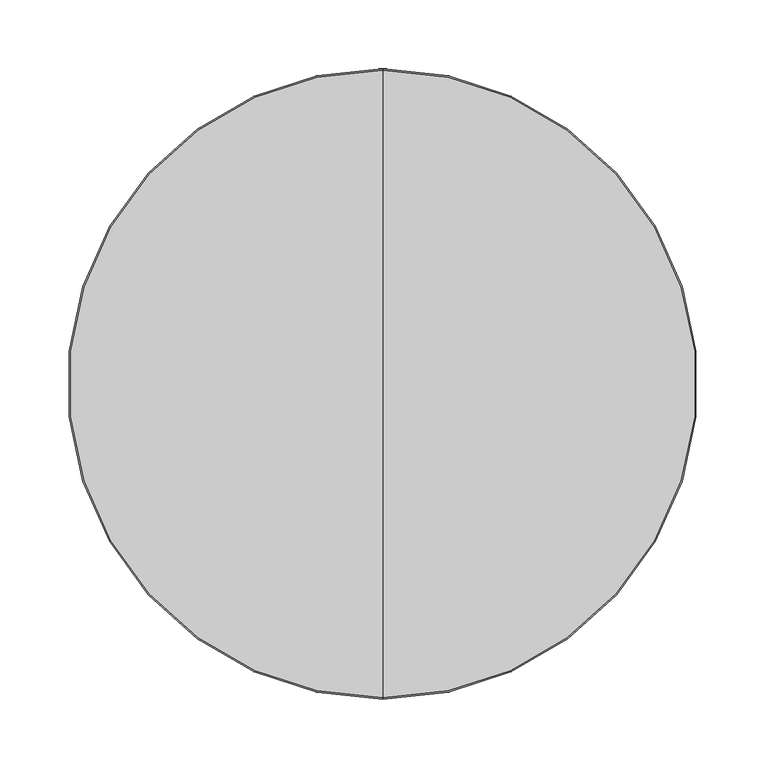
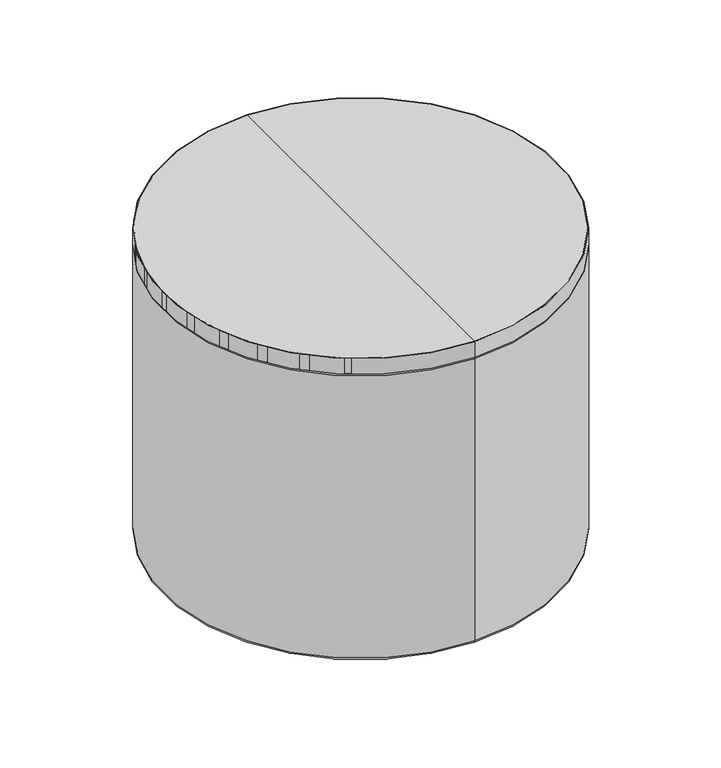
"""IFC4 building model written with IfcOpenShell, lengths in millimetres: furniture geometry, Indiana-Otty-Ottoman_Round_Table : 840-1815ROT."""

import ifcopenshell
import ifcopenshell.guid

model = None  # the IFC model being written
_history = None  # IfcOwnerHistory: only IFC2X3 demands one
_inside = {}  # id of a spatial element -> (the spatial element, [elements in it])
_under = {}  # id of a project, library or spatial element -> (it, [spatial elements below it])
_declared = {}  # id of a project -> (the project, [libraries it declares])
_typed = {}  # id of a type object -> (the type object, [elements of that type])
_made_of = {}  # id of a material, layer set ... -> (it, [elements and type objects made of it])


def new_model(schema):
    """Start an empty IFC model of exactly this schema.

    Asked for "IFC4X3", IfcOpenShell would pick the latest addendum, in which some entities
    have other attributes; the version numbers below select the first issue.
    IFC2X3 requires an IfcOwnerHistory on every rooted entity: one is made here for all.
    """
    global model, _history
    if schema == "IFC4X3":
        model = ifcopenshell.file(schema_version=(4, 3, 0, 0))
    else:
        model = ifcopenshell.file(schema=schema)
    _inside.clear()
    _under.clear()
    _declared.clear()
    _typed.clear()
    _made_of.clear()
    _history = None
    if model.schema == "IFC2X3":
        org = make("IfcOrganization", Name="unknown")
        user = make(
            "IfcPersonAndOrganization",
            ThePerson=make("IfcPerson", FamilyName="unknown"),
            TheOrganization=org,
        )
        app = make(
            "IfcApplication",
            ApplicationDeveloper=org,
            Version="unknown",
            ApplicationFullName="unknown",
            ApplicationIdentifier="unknown",
        )
        _history = make(
            "IfcOwnerHistory",
            OwningUser=user,
            OwningApplication=app,
            ChangeAction="ADDED",
            CreationDate=0,
        )
    return model


def make(cls, **values):
    """One entity of the class cls with the attributes given. An attribute that is None is left unset."""
    return model.create_entity(
        cls, **{name: value for name, value in values.items() if value is not None}
    )


def rooted(cls, **values):
    """An entity with a GlobalId (a new one), such as an element, a storey or a relation."""
    return make(cls, GlobalId=ifcopenshell.guid.new(), OwnerHistory=_history, **values)


def si_unit(unit_type, name, prefix=None):
    """IfcSIUnit, for example si_unit("LENGTHUNIT", "METRE", prefix="MILLI")."""
    return make("IfcSIUnit", UnitType=unit_type, Prefix=prefix, Name=name)


def assignment(units):
    """IfcUnitAssignment: the units of a project."""
    return None if units is None else make("IfcUnitAssignment", Units=units)


def point(xyz):
    """IfcCartesianPoint."""
    return None if xyz is None else make("IfcCartesianPoint", Coordinates=xyz)


def direction(xyz):
    """IfcDirection."""
    return None if xyz is None else make("IfcDirection", DirectionRatios=xyz)


def frame(location, z_axis=None, x_axis=None):
    """IfcAxis2Placement3D, a coordinate frame: its origin and axes. An axis left out is left unset."""
    return make(
        "IfcAxis2Placement3D",
        Location=point(location),
        Axis=direction(z_axis),
        RefDirection=direction(x_axis),
    )


def origin():
    """The frame at (0, 0, 0) with its axes left unset."""
    return frame((0.0, 0.0, 0.0))


def place(relative_to, where):
    """IfcLocalPlacement: puts the frame where relative to a parent placement (None: the world)."""
    return make(
        "IfcLocalPlacement", PlacementRelTo=relative_to, RelativePlacement=where
    )


def context(
    kind, dimensions, precision=None, world=None, true_north=None, identifier=None
):
    """IfcGeometricRepresentationContext, for example the 3D "Model" context."""
    return make(
        "IfcGeometricRepresentationContext",
        ContextIdentifier=identifier,
        ContextType=kind,
        CoordinateSpaceDimension=dimensions,
        Precision=precision,
        WorldCoordinateSystem=world,
        TrueNorth=true_north,
    )


def project(units=None, contexts=None):
    """IfcProject with its units and contexts."""
    return rooted(
        "IfcProject",
        Name="project",
        RepresentationContexts=contexts,
        UnitsInContext=assignment(units),
    )


def spatial(cls, under=None, at=None, **own):
    """A site, building, storey or space (cls), placed at a placement, below another one or the project."""
    s = rooted(cls, ObjectPlacement=at, **own)
    if under is not None:
        _under.setdefault(under.id(), (under, []))[1].append(s)
    return s


def polyline(points):
    """IfcPolyline through the points."""
    return make("IfcPolyline", Points=[point(p) for p in points])


def circle_curve(where, radius):
    """IfcCircle in the frame where."""
    return make("IfcCircle", Position=where, Radius=radius)


def ellipse_curve(where, semi_axis1, semi_axis2):
    """IfcEllipse in the frame where."""
    return make(
        "IfcEllipse", Position=where, SemiAxis1=semi_axis1, SemiAxis2=semi_axis2
    )


def trimmed(basis, trim1, trim2, sense, master):
    """IfcTrimmedCurve: the piece of a basis curve between two trims."""
    return make(
        "IfcTrimmedCurve",
        BasisCurve=basis,
        Trim1=trim1,
        Trim2=trim2,
        SenseAgreement=sense,
        MasterRepresentation=master,
    )


def shape(context_of_items, identifier, shape_type, items):
    """IfcShapeRepresentation: the items that make up one representation, for example the "Body"."""
    return make(
        "IfcShapeRepresentation",
        ContextOfItems=context_of_items,
        RepresentationIdentifier=identifier,
        RepresentationType=shape_type,
        Items=items,
    )


def source(mapping_origin, context_of_items, identifier, shape_type, items):
    """IfcRepresentationMap: a shape defined once, which mapped items show again and again."""
    return make(
        "IfcRepresentationMap",
        MappingOrigin=mapping_origin,
        MappedRepresentation=shape(context_of_items, identifier, shape_type, items),
    )


def transform(
    local_origin,
    x_axis=None,
    y_axis=None,
    z_axis=None,
    scale=None,
    scale2=None,
    scale3=None,
    uniform=True,
):
    """IfcCartesianTransformationOperator3D, or its non-uniform kind. x_axis, y_axis, z_axis: its Axis1, 2, 3."""
    if uniform:
        return make(
            "IfcCartesianTransformationOperator3D",
            Axis1=direction(x_axis),
            Axis2=direction(y_axis),
            LocalOrigin=point(local_origin),
            Scale=scale,
            Axis3=direction(z_axis),
        )
    return make(
        "IfcCartesianTransformationOperator3DnonUniform",
        Axis1=direction(x_axis),
        Axis2=direction(y_axis),
        LocalOrigin=point(local_origin),
        Scale=scale,
        Axis3=direction(z_axis),
        Scale2=scale2,
        Scale3=scale3,
    )


def mapped(mapping_source, mapping_target):
    """IfcMappedItem: shows the shape of a source again, moved by a transform."""
    return make(
        "IfcMappedItem", MappingSource=mapping_source, MappingTarget=mapping_target
    )


def made_of(thing, what):
    """Note that an element or type object is made of a material, layer set ...; save() writes the relation."""
    if what is not None:
        _made_of.setdefault(what.id(), (what, []))[1].append(thing)
    return thing


def element(
    cls,
    number,
    at=None,
    inside=None,
    cuts=None,
    type_object=None,
    material=None,
    context=None,
    identifier="Body",
    shape_type=None,
    held_by="IfcProductDefinitionShape",
    body=None,
    shapes=None,
    **own,
):
    """One element of the class cls, such as IfcWall. Its Tag is "e" and its number.

    at: its placement. inside: the storey or other place that contains it. cuts: it is an
    opening in that element (IfcRelVoidsElement). A single representation is given by context,
    identifier, shape_type and body (its items); several are given by shapes. held_by: the class
    of the entity that holds the representations. save() writes the other relations.
    """
    e = rooted(cls, Tag="e%d" % number, ObjectPlacement=at, **own)
    if body is not None:
        shapes = [shape(context, identifier, shape_type, body)]
    if shapes is not None:
        e.Representation = make(held_by, Representations=shapes)
    if inside is not None:
        _inside.setdefault(inside.id(), (inside, []))[1].append(e)
    if cuts is not None:
        rooted(
            "IfcRelVoidsElement", RelatingBuildingElement=cuts, RelatedOpeningElement=e
        )
    if type_object is not None:
        _typed.setdefault(type_object.id(), (type_object, []))[1].append(e)
    return made_of(e, material)


def aggregate(whole, parts):
    """IfcRelAggregates: a whole, such as a stair, and the parts it consists of."""
    return rooted("IfcRelAggregates", RelatingObject=whole, RelatedObjects=parts)


def save(model, path):
    """Write the relations noted so far, then the file.

    IfcRelAggregates (storeys below a building ...), IfcRelContainedInSpatialStructure (elements
    in a storey), IfcRelDefinesByType, IfcRelAssociatesMaterial and IfcRelDeclares: one each for
    every whole, place, type object, material and project.
    """
    for whole, parts in _under.values():
        aggregate(whole, parts)
    for where, things in _inside.values():
        rooted(
            "IfcRelContainedInSpatialStructure",
            RelatedElements=things,
            RelatingStructure=where,
        )
    for kind, things in _typed.values():
        rooted("IfcRelDefinesByType", RelatedObjects=things, RelatingType=kind)
    for what, things in _made_of.values():
        rooted("IfcRelAssociatesMaterial", RelatedObjects=things, RelatingMaterial=what)
    for by, libraries in _declared.values():
        rooted("IfcRelDeclares", RelatingContext=by, RelatedDefinitions=libraries)
    model.write(path)


def plane_surface(at):
    """IfcPlane: the flat surface through the origin of the frame at, square to its z axis."""
    return make("IfcPlane", Position=at)


def cylinder_surface(at, radius):
    """IfcCylindricalSurface: all points at the distance radius from the z axis of the frame at."""
    return make("IfcCylindricalSurface", Position=at, Radius=radius)


def revolved_surface(curve, axis_point, axis_direction):
    """IfcSurfaceOfRevolution: the curve turned about the line through axis_point along axis_direction."""
    return make(
        "IfcSurfaceOfRevolution",
        SweptCurve=make("IfcArbitraryOpenProfileDef", ProfileType="CURVE", Curve=curve),
        AxisPosition=make("IfcAxis1Placement", Location=point(axis_point), Axis=direction(axis_direction)),
    )


def advanced_brep(points, edges, surfaces, faces):
    """IfcAdvancedBrep: a solid bounded by faces that lie on surfaces and meet in shared edges.

    An edge is (start, end): straight between two places in points (the first is 0);
    or (start, end, curve); or (start, end, curve, False) where it runs against its curve.
    A face is (place in surfaces, loops), or (place, loops, False) where it looks against
    its surface's normal. A loop lists edges by number (the first is 1), with a minus sign
    where the edge is run from its end to its start. The first loop is the outer one.
    """
    corners = [point(p) for p in points]
    vertices = [make("IfcVertexPoint", VertexGeometry=c) for c in corners]
    made = []
    for start, end, *more in edges:
        made.append(
            make(
                "IfcEdgeCurve",
                EdgeStart=vertices[start],
                EdgeEnd=vertices[end],
                EdgeGeometry=more[0] if more else make("IfcPolyline", Points=[corners[start], corners[end]]),
                SameSense=more[1] if len(more) > 1 else True,
            )
        )
    hull = []
    for where, loops, *sense in faces:
        bounds = []
        for j, loop in enumerate(loops):
            ring = [make("IfcOrientedEdge", EdgeElement=made[abs(k) - 1], Orientation=k > 0) for k in loop]
            bounds.append(
                make(
                    "IfcFaceOuterBound" if j == 0 else "IfcFaceBound",
                    Bound=make("IfcEdgeLoop", EdgeList=ring),
                    Orientation=True,
                )
            )
        hull.append(make("IfcAdvancedFace", Bounds=bounds, FaceSurface=surfaces[where], SameSense=sense[0] if sense else True))
    return make("IfcAdvancedBrep", Outer=make("IfcClosedShell", CfsFaces=hull))


def furniture_b9e1d5f8(model_context):
    return source(origin(), model_context, "Body", "AdvancedBrep", [
        advanced_brep(
        [(0.0, -227.6078125, 361.95), (0.0, 227.6078125, 361.95), (0.0, 0.0, 361.95), (0.0, -227.6078125, 381.0), (0.0, 227.6078125, 381.0), (0.0, 0.0, 381.0)],
        [
            (0, 1, circle_curve(frame((0.0, 0.0, 361.95), z_axis=(0.0, 0.0, -1.0), x_axis=(0.0, 1.0, 0.0)), 227.6078125)),
            (1, 2),
            (2, 0),
            (1, 0, circle_curve(frame((0.0, 0.0, 361.95), z_axis=(0.0, 0.0, -1.0), x_axis=(0.0, 1.0, 0.0)), 227.6078125)),
            (3, 4, circle_curve(frame((0.0, 0.0, 381.0), z_axis=(0.0, 0.0, -1.0), x_axis=(0.0, 1.0, 0.0)), 227.6078125)),
            (4, 1),
            (0, 3),
            (4, 3, circle_curve(frame((0.0, 0.0, 381.0), z_axis=(0.0, 0.0, -1.0), x_axis=(0.0, 1.0, 0.0)), 227.6078125)),
            (5, 4),
            (3, 5),
        ],
        [
            plane_surface(frame((0.0, 0.0, 361.95), z_axis=(0.0, 0.0, -1.0), x_axis=(0.0, 1.0, 0.0))),
            cylinder_surface(frame((0.0, 0.0, 387.35), z_axis=(0.0, 0.0, 1.0), x_axis=(0.0, 1.0, 0.0)), 227.6078125),
            plane_surface(frame((0.0, 0.0, 381.0), z_axis=(0.0, 0.0, 1.0), x_axis=(0.0, 1.0, 0.0))),
        ],
        [
            (0, [[1, 2, 3]]),
            (0, [[4, -3, -2]]),
            (1, [[5, 6, -1, 7]]),
            (1, [[8, -7, -4, -6]]),
            (2, [[9, -5, 10]]),
            (2, [[-10, -8, -9]]),
        ],
    ),
        advanced_brep(
        [(0.0, -227.6078125, 361.95), (0.0, 227.6078125, 361.95), (0.0, 227.6078125, 381.0), (0.0, -227.6078125, 381.0), (0.0, -228.6, 361.95), (0.0, 228.6, 361.95), (0.0, -228.6, 381.0), (0.0, 228.6, 381.0)],
        [
            (0, 1, circle_curve(frame((0.0, 0.0, 361.95), z_axis=(0.0, 0.0, -1.0), x_axis=(0.0, 1.0, 0.0)), 227.6078125)),
            (1, 2),
            (2, 3, circle_curve(frame((0.0, 0.0, 381.0), z_axis=(0.0, 0.0, 1.0), x_axis=(0.0, 1.0, 0.0)), 227.6078125)),
            (3, 0),
            (1, 0, circle_curve(frame((0.0, 0.0, 361.95), z_axis=(0.0, 0.0, -1.0), x_axis=(0.0, 1.0, 0.0)), 227.6078125)),
            (3, 2, circle_curve(frame((0.0, 0.0, 381.0), z_axis=(0.0, 0.0, 1.0), x_axis=(0.0, 1.0, 0.0)), 227.6078125)),
            (4, 5, circle_curve(frame((0.0, 0.0, 361.95), z_axis=(0.0, 0.0, -1.0), x_axis=(0.0, 1.0, 0.0)), 228.6)),
            (5, 1),
            (0, 4),
            (5, 4, circle_curve(frame((0.0, 0.0, 361.95), z_axis=(0.0, 0.0, -1.0), x_axis=(0.0, 1.0, 0.0)), 228.6)),
            (6, 7, circle_curve(frame((0.0, 0.0, 381.0), z_axis=(0.0, 0.0, -1.0), x_axis=(0.0, 1.0, 0.0)), 228.6)),
            (7, 5),
            (4, 6),
            (7, 6, circle_curve(frame((0.0, 0.0, 381.0), z_axis=(0.0, 0.0, -1.0), x_axis=(0.0, 1.0, 0.0)), 228.6)),
            (2, 7),
            (6, 3),
        ],
        [
            revolved_surface(polyline([(0.0, 227.6078125, 381.0), (0.0, 227.6078125, 361.95)]), (0.0, 0.0, 400.05), (0.0, 0.0, 1.0)),
            plane_surface(frame((0.0, 0.0, 361.95), z_axis=(0.0, 0.0, -1.0), x_axis=(0.0, 1.0, 0.0))),
            cylinder_surface(frame((0.0, 0.0, 400.05), z_axis=(0.0, 0.0, 1.0), x_axis=(0.0, 1.0, 0.0)), 228.6),
            plane_surface(frame((0.0, 0.0, 381.0), z_axis=(0.0, 0.0, 1.0), x_axis=(0.0, 1.0, 0.0))),
        ],
        [
            (0, [[1, 2, 3, 4]]),
            (0, [[5, -4, 6, -2]]),
            (1, [[7, 8, -1, 9]]),
            (1, [[10, -9, -5, -8]]),
            (2, [[11, 12, -7, 13]]),
            (2, [[14, -13, -10, -12]]),
            (3, [[-3, 15, -11, 16]]),
            (3, [[-6, -16, -14, -15]]),
        ],
    ),
        advanced_brep(
        [(126.4514457, -129.4834071, 19.8875), (126.4514457, -106.9834071, 19.8875), (126.4514457, -151.9834071, 19.8875), (126.4514457, -107.4318989, 4.2458827), (126.4514457, -151.5349153, 4.2458827), (126.4514457, -111.9170406, -0.1125), (126.4514457, -147.0497736, -0.1125), (126.4514457, -119.2157893, -0.1125), (126.4514457, -139.7510249, -0.1125), (126.4514457, -123.1102654, 3.9179615), (126.4514457, -135.8565488, 3.9179615), (126.4514457, -129.4834071, 3.9179615)],
        [
            (0, 1),
            (1, 2, circle_curve(frame((126.4514457, -129.4834071, 19.8875), z_axis=(0.0, 0.0, 1.0), x_axis=(0.0, 1.0, 0.0)), 22.5)),
            (2, 0),
            (2, 1, circle_curve(frame((126.4514457, -129.4834071, 19.8875), z_axis=(0.0, 0.0, 1.0), x_axis=(0.0, 1.0, 0.0)), 22.5)),
            (1, 3),
            (3, 4, circle_curve(frame((126.4514457, -129.4834071, 4.2458827), z_axis=(0.0, 0.0, 1.0), x_axis=(0.0, 1.0, 0.0)), 22.0515082)),
            (4, 2),
            (4, 3, circle_curve(frame((126.4514457, -129.4834071, 4.2458827), z_axis=(0.0, 0.0, 1.0), x_axis=(0.0, 1.0, 0.0)), 22.0515082)),
            (3, 5, circle_curve(frame((126.4514457, -111.9170406, 4.3744851), z_axis=(-1.0, 0.0, 0.0), x_axis=(0.0, -1.0, 0.0)), 4.4869851)),
            (5, 6, circle_curve(frame((126.4514457, -129.4834071, -0.1125), z_axis=(0.0, 0.0, 1.0), x_axis=(0.0, 1.0, 0.0)), 17.5663665)),
            (6, 4, circle_curve(frame((126.4514457, -147.0497736, 4.3744851), z_axis=(-1.0, 0.0, 0.0), x_axis=(0.0, 1.0, 0.0)), 4.4869851)),
            (6, 5, circle_curve(frame((126.4514457, -129.4834071, -0.1125), z_axis=(0.0, 0.0, 1.0), x_axis=(0.0, 1.0, 0.0)), 17.5663665)),
            (5, 7),
            (7, 8, circle_curve(frame((126.4514457, -129.4834071, -0.1125), z_axis=(0.0, 0.0, 1.0), x_axis=(0.0, 1.0, 0.0)), 10.2676178)),
            (8, 6),
            (8, 7, circle_curve(frame((126.4514457, -129.4834071, -0.1125), z_axis=(0.0, 0.0, 1.0), x_axis=(0.0, 1.0, 0.0)), 10.2676178)),
            (7, 9, circle_curve(frame((126.4514457, -119.2157893, 3.7842702), z_axis=(-1.0, 0.0, 0.0), x_axis=(0.0, -1.0, 0.0)), 3.8967702)),
            (9, 10, circle_curve(frame((126.4514457, -129.4834071, 3.9179615), z_axis=(0.0, 0.0, 1.0), x_axis=(0.0, 1.0, 0.0)), 6.3731417)),
            (10, 8, circle_curve(frame((126.4514457, -139.7510249, 3.7842702), z_axis=(-1.0, 0.0, 0.0), x_axis=(0.0, 1.0, 0.0)), 3.8967702)),
            (10, 9, circle_curve(frame((126.4514457, -129.4834071, 3.9179615), z_axis=(0.0, 0.0, 1.0), x_axis=(0.0, 1.0, 0.0)), 6.3731417)),
            (9, 11),
            (11, 10),
        ],
        [
            plane_surface(frame((126.4514457, -129.4834071, 19.8875), z_axis=(0.0, 0.0, 1.0), x_axis=(0.0, 1.0, 0.0))),
            revolved_surface(polyline([(126.4514457, -107.4318989, 4.2458827), (126.4514457, -106.9834071, 19.8875)]), (126.4514457, -129.4834071, 31.0803862), (0.0, 0.0, 1.0)),
            revolved_surface(trimmed(ellipse_curve(frame((126.4514457, -111.9170406, 4.3744851), z_axis=(1.0, 0.0, 0.0), x_axis=(0.0, -1.0, 0.0)), 4.4869851, 4.4869851), [point((126.4514457, -111.9170406, -0.1125))], [point((126.4514457, -107.4318989, 4.2458827))], True, "CARTESIAN"), (126.4514457, -129.4834071, 31.0803862), (0.0, 0.0, 1.0)),
            plane_surface(frame((126.4514457, -129.4834071, -0.1125), z_axis=(0.0, 0.0, -1.0), x_axis=(0.0, 1.0, 0.0))),
            revolved_surface(trimmed(ellipse_curve(frame((126.4514457, -119.2157893, 3.7842702), z_axis=(1.0, 0.0, 0.0), x_axis=(0.0, -1.0, 0.0)), 3.8967702, 3.8967702), [point((126.4514457, -123.1102654, 3.9179615))], [point((126.4514457, -119.2157893, -0.1125))], True, "CARTESIAN"), (126.4514457, -129.4834071, 31.0803862), (0.0, 0.0, 1.0)),
            plane_surface(frame((126.4514457, -129.4834071, 3.9179615), z_axis=(0.0, 0.0, -1.0), x_axis=(0.0, 1.0, 0.0))),
        ],
        [
            (0, [[1, 2, 3]]),
            (0, [[-3, 4, -1]]),
            (1, [[-2, 5, 6, 7]]),
            (1, [[-4, -7, 8, -5]]),
            (2, [[-6, 9, 10, 11]]),
            (2, [[-8, -11, 12, -9]]),
            (3, [[-10, 13, 14, 15]]),
            (3, [[-12, -15, 16, -13]]),
            (4, [[-14, 17, 18, 19]]),
            (4, [[-16, -19, 20, -17]]),
            (5, [[-18, 21, 22]]),
            (5, [[-20, -22, -21]]),
        ],
    ),
        advanced_brep(
        [(-129.4834071, -126.4514457, 19.8875), (-106.9834071, -126.4514457, 19.8875), (-151.9834071, -126.4514457, 19.8875), (-107.4318989, -126.4514457, 4.2458827), (-151.5349153, -126.4514457, 4.2458827), (-111.9170406, -126.4514457, -0.1125), (-147.0497736, -126.4514457, -0.1125), (-119.2157893, -126.4514457, -0.1125), (-139.7510249, -126.4514457, -0.1125), (-123.1102654, -126.4514457, 3.9179615), (-135.8565488, -126.4514457, 3.9179615), (-129.4834071, -126.4514457, 3.9179615)],
        [
            (0, 1),
            (1, 2, circle_curve(frame((-129.4834071, -126.4514457, 19.8875), z_axis=(0.0, 0.0, 1.0), x_axis=(1.0, 0.0, 0.0)), 22.5)),
            (2, 0),
            (2, 1, circle_curve(frame((-129.4834071, -126.4514457, 19.8875), z_axis=(0.0, 0.0, 1.0), x_axis=(1.0, 0.0, 0.0)), 22.5)),
            (1, 3),
            (3, 4, circle_curve(frame((-129.4834071, -126.4514457, 4.2458827), z_axis=(0.0, 0.0, 1.0), x_axis=(1.0, 0.0, 0.0)), 22.0515082)),
            (4, 2),
            (4, 3, circle_curve(frame((-129.4834071, -126.4514457, 4.2458827), z_axis=(0.0, 0.0, 1.0), x_axis=(1.0, 0.0, 0.0)), 22.0515082)),
            (3, 5, circle_curve(frame((-111.9170406, -126.4514457, 4.3744851), z_axis=(0.0, 1.0, 0.0), x_axis=(-1.0, 0.0, 0.0)), 4.4869851)),
            (5, 6, circle_curve(frame((-129.4834071, -126.4514457, -0.1125), z_axis=(0.0, 0.0, 1.0), x_axis=(1.0, 0.0, 0.0)), 17.5663665)),
            (6, 4, circle_curve(frame((-147.0497736, -126.4514457, 4.3744851), z_axis=(0.0, 1.0, 0.0), x_axis=(1.0, 0.0, 0.0)), 4.4869851)),
            (6, 5, circle_curve(frame((-129.4834071, -126.4514457, -0.1125), z_axis=(0.0, 0.0, 1.0), x_axis=(1.0, 0.0, 0.0)), 17.5663665)),
            (5, 7),
            (7, 8, circle_curve(frame((-129.4834071, -126.4514457, -0.1125), z_axis=(0.0, 0.0, 1.0), x_axis=(1.0, 0.0, 0.0)), 10.2676178)),
            (8, 6),
            (8, 7, circle_curve(frame((-129.4834071, -126.4514457, -0.1125), z_axis=(0.0, 0.0, 1.0), x_axis=(1.0, 0.0, 0.0)), 10.2676178)),
            (7, 9, circle_curve(frame((-119.2157893, -126.4514457, 3.7842702), z_axis=(0.0, 1.0, 0.0), x_axis=(-1.0, 0.0, 0.0)), 3.8967702)),
            (9, 10, circle_curve(frame((-129.4834071, -126.4514457, 3.9179615), z_axis=(0.0, 0.0, 1.0), x_axis=(1.0, 0.0, 0.0)), 6.3731417)),
            (10, 8, circle_curve(frame((-139.7510249, -126.4514457, 3.7842702), z_axis=(0.0, 1.0, 0.0), x_axis=(1.0, 0.0, 0.0)), 3.8967702)),
            (10, 9, circle_curve(frame((-129.4834071, -126.4514457, 3.9179615), z_axis=(0.0, 0.0, 1.0), x_axis=(1.0, 0.0, 0.0)), 6.3731417)),
            (9, 11),
            (11, 10),
        ],
        [
            plane_surface(frame((-129.4834071, -126.4514457, 19.8875), z_axis=(0.0, 0.0, 1.0), x_axis=(1.0, 0.0, 0.0))),
            revolved_surface(polyline([(-107.4318989, -126.4514457, 4.2458827), (-106.9834071, -126.4514457, 19.8875)]), (-129.4834071, -126.4514457, 31.0803862), (0.0, 0.0, 1.0)),
            revolved_surface(trimmed(ellipse_curve(frame((-111.9170406, -126.4514457, 4.3744851), z_axis=(0.0, -1.0, 0.0), x_axis=(-1.0, 0.0, 0.0)), 4.4869851, 4.4869851), [point((-111.9170406, -126.4514457, -0.1125))], [point((-107.4318989, -126.4514457, 4.2458827))], True, "CARTESIAN"), (-129.4834071, -126.4514457, 31.0803862), (0.0, 0.0, 1.0)),
            plane_surface(frame((-129.4834071, -126.4514457, -0.1125), z_axis=(0.0, 0.0, -1.0), x_axis=(1.0, 0.0, 0.0))),
            revolved_surface(trimmed(ellipse_curve(frame((-119.2157893, -126.4514457, 3.7842702), z_axis=(0.0, -1.0, 0.0), x_axis=(-1.0, 0.0, 0.0)), 3.8967702, 3.8967702), [point((-123.1102654, -126.4514457, 3.9179615))], [point((-119.2157893, -126.4514457, -0.1125))], True, "CARTESIAN"), (-129.4834071, -126.4514457, 31.0803862), (0.0, 0.0, 1.0)),
            plane_surface(frame((-129.4834071, -126.4514457, 3.9179615), z_axis=(0.0, 0.0, -1.0), x_axis=(1.0, 0.0, 0.0))),
        ],
        [
            (0, [[1, 2, 3]]),
            (0, [[-3, 4, -1]]),
            (1, [[-2, 5, 6, 7]]),
            (1, [[-4, -7, 8, -5]]),
            (2, [[-6, 9, 10, 11]]),
            (2, [[-8, -11, 12, -9]]),
            (3, [[-10, 13, 14, 15]]),
            (3, [[-12, -15, 16, -13]]),
            (4, [[-14, 17, 18, 19]]),
            (4, [[-16, -19, 20, -17]]),
            (5, [[-18, 21, 22]]),
            (5, [[-20, -22, -21]]),
        ],
    ),
        advanced_brep(
        [(129.4834071, 126.4514457, 19.8875), (106.9834071, 126.4514457, 19.8875), (151.9834071, 126.4514457, 19.8875), (107.4318989, 126.4514457, 4.2458827), (151.5349153, 126.4514457, 4.2458827), (111.9170406, 126.4514457, -0.1125), (147.0497736, 126.4514457, -0.1125), (119.2157893, 126.4514457, -0.1125), (139.7510249, 126.4514457, -0.1125), (123.1102654, 126.4514457, 3.9179615), (135.8565488, 126.4514457, 3.9179615), (129.4834071, 126.4514457, 3.9179615)],
        [
            (0, 1),
            (1, 2, circle_curve(frame((129.4834071, 126.4514457, 19.8875), z_axis=(0.0, 0.0, 1.0), x_axis=(-1.0, 0.0, 0.0)), 22.5)),
            (2, 0),
            (2, 1, circle_curve(frame((129.4834071, 126.4514457, 19.8875), z_axis=(0.0, 0.0, 1.0), x_axis=(-1.0, 0.0, 0.0)), 22.5)),
            (1, 3),
            (3, 4, circle_curve(frame((129.4834071, 126.4514457, 4.2458827), z_axis=(0.0, 0.0, 1.0), x_axis=(-1.0, 0.0, 0.0)), 22.0515082)),
            (4, 2),
            (4, 3, circle_curve(frame((129.4834071, 126.4514457, 4.2458827), z_axis=(0.0, 0.0, 1.0), x_axis=(-1.0, 0.0, 0.0)), 22.0515082)),
            (3, 5, circle_curve(frame((111.9170406, 126.4514457, 4.3744851), z_axis=(0.0, -1.0, 0.0), x_axis=(1.0, 0.0, 0.0)), 4.4869851)),
            (5, 6, circle_curve(frame((129.4834071, 126.4514457, -0.1125), z_axis=(0.0, 0.0, 1.0), x_axis=(-1.0, 0.0, 0.0)), 17.5663665)),
            (6, 4, circle_curve(frame((147.0497736, 126.4514457, 4.3744851), z_axis=(0.0, -1.0, 0.0), x_axis=(-1.0, 0.0, 0.0)), 4.4869851)),
            (6, 5, circle_curve(frame((129.4834071, 126.4514457, -0.1125), z_axis=(0.0, 0.0, 1.0), x_axis=(-1.0, 0.0, 0.0)), 17.5663665)),
            (5, 7),
            (7, 8, circle_curve(frame((129.4834071, 126.4514457, -0.1125), z_axis=(0.0, 0.0, 1.0), x_axis=(-1.0, 0.0, 0.0)), 10.2676178)),
            (8, 6),
            (8, 7, circle_curve(frame((129.4834071, 126.4514457, -0.1125), z_axis=(0.0, 0.0, 1.0), x_axis=(-1.0, 0.0, 0.0)), 10.2676178)),
            (7, 9, circle_curve(frame((119.2157893, 126.4514457, 3.7842702), z_axis=(0.0, -1.0, 0.0), x_axis=(1.0, 0.0, 0.0)), 3.8967702)),
            (9, 10, circle_curve(frame((129.4834071, 126.4514457, 3.9179615), z_axis=(0.0, 0.0, 1.0), x_axis=(-1.0, 0.0, 0.0)), 6.3731417)),
            (10, 8, circle_curve(frame((139.7510249, 126.4514457, 3.7842702), z_axis=(0.0, -1.0, 0.0), x_axis=(-1.0, 0.0, 0.0)), 3.8967702)),
            (10, 9, circle_curve(frame((129.4834071, 126.4514457, 3.9179615), z_axis=(0.0, 0.0, 1.0), x_axis=(-1.0, 0.0, 0.0)), 6.3731417)),
            (9, 11),
            (11, 10),
        ],
        [
            plane_surface(frame((129.4834071, 126.4514457, 19.8875), z_axis=(0.0, 0.0, 1.0), x_axis=(-1.0, 0.0, 0.0))),
            revolved_surface(polyline([(107.4318989, 126.4514457, 4.2458827), (106.9834071, 126.4514457, 19.8875)]), (129.4834071, 126.4514457, 31.0803862), (0.0, 0.0, 1.0)),
            revolved_surface(trimmed(ellipse_curve(frame((111.9170406, 126.4514457, 4.3744851), z_axis=(0.0, 1.0, 0.0), x_axis=(1.0, 0.0, 0.0)), 4.4869851, 4.4869851), [point((111.9170406, 126.4514457, -0.1125))], [point((107.4318989, 126.4514457, 4.2458827))], True, "CARTESIAN"), (129.4834071, 126.4514457, 31.0803862), (0.0, 0.0, 1.0)),
            plane_surface(frame((129.4834071, 126.4514457, -0.1125), z_axis=(0.0, 0.0, -1.0), x_axis=(-1.0, 0.0, 0.0))),
            revolved_surface(trimmed(ellipse_curve(frame((119.2157893, 126.4514457, 3.7842702), z_axis=(0.0, 1.0, 0.0), x_axis=(1.0, 0.0, 0.0)), 3.8967702, 3.8967702), [point((123.1102654, 126.4514457, 3.9179615))], [point((119.2157893, 126.4514457, -0.1125))], True, "CARTESIAN"), (129.4834071, 126.4514457, 31.0803862), (0.0, 0.0, 1.0)),
            plane_surface(frame((129.4834071, 126.4514457, 3.9179615), z_axis=(0.0, 0.0, -1.0), x_axis=(-1.0, 0.0, 0.0))),
        ],
        [
            (0, [[1, 2, 3]]),
            (0, [[-3, 4, -1]]),
            (1, [[-2, 5, 6, 7]]),
            (1, [[-4, -7, 8, -5]]),
            (2, [[-6, 9, 10, 11]]),
            (2, [[-8, -11, 12, -9]]),
            (3, [[-10, 13, 14, 15]]),
            (3, [[-12, -15, 16, -13]]),
            (4, [[-14, 17, 18, 19]]),
            (4, [[-16, -19, 20, -17]]),
            (5, [[-18, 21, 22]]),
            (5, [[-20, -22, -21]]),
        ],
    ),
        advanced_brep(
        [(-126.4514457, 129.4834071, 19.8875), (-126.4514457, 106.9834071, 19.8875), (-126.4514457, 151.9834071, 19.8875), (-126.4514457, 107.4318989, 4.2458827), (-126.4514457, 151.5349153, 4.2458827), (-126.4514457, 111.9170406, -0.1125), (-126.4514457, 147.0497736, -0.1125), (-126.4514457, 119.2157893, -0.1125), (-126.4514457, 139.7510249, -0.1125), (-126.4514457, 123.1102654, 3.9179615), (-126.4514457, 135.8565488, 3.9179615), (-126.4514457, 129.4834071, 3.9179615)],
        [
            (0, 1),
            (1, 2, circle_curve(frame((-126.4514457, 129.4834071, 19.8875), z_axis=(0.0, 0.0, 1.0), x_axis=(0.0, -1.0, 0.0)), 22.5)),
            (2, 0),
            (2, 1, circle_curve(frame((-126.4514457, 129.4834071, 19.8875), z_axis=(0.0, 0.0, 1.0), x_axis=(0.0, -1.0, 0.0)), 22.5)),
            (1, 3),
            (3, 4, circle_curve(frame((-126.4514457, 129.4834071, 4.2458827), z_axis=(0.0, 0.0, 1.0), x_axis=(0.0, -1.0, 0.0)), 22.0515082)),
            (4, 2),
            (4, 3, circle_curve(frame((-126.4514457, 129.4834071, 4.2458827), z_axis=(0.0, 0.0, 1.0), x_axis=(0.0, -1.0, 0.0)), 22.0515082)),
            (3, 5, circle_curve(frame((-126.4514457, 111.9170406, 4.3744851), z_axis=(1.0, 0.0, 0.0), x_axis=(0.0, 1.0, 0.0)), 4.4869851)),
            (5, 6, circle_curve(frame((-126.4514457, 129.4834071, -0.1125), z_axis=(0.0, 0.0, 1.0), x_axis=(0.0, -1.0, 0.0)), 17.5663665)),
            (6, 4, circle_curve(frame((-126.4514457, 147.0497736, 4.3744851), z_axis=(1.0, 0.0, 0.0), x_axis=(0.0, -1.0, 0.0)), 4.4869851)),
            (6, 5, circle_curve(frame((-126.4514457, 129.4834071, -0.1125), z_axis=(0.0, 0.0, 1.0), x_axis=(0.0, -1.0, 0.0)), 17.5663665)),
            (5, 7),
            (7, 8, circle_curve(frame((-126.4514457, 129.4834071, -0.1125), z_axis=(0.0, 0.0, 1.0), x_axis=(0.0, -1.0, 0.0)), 10.2676178)),
            (8, 6),
            (8, 7, circle_curve(frame((-126.4514457, 129.4834071, -0.1125), z_axis=(0.0, 0.0, 1.0), x_axis=(0.0, -1.0, 0.0)), 10.2676178)),
            (7, 9, circle_curve(frame((-126.4514457, 119.2157893, 3.7842702), z_axis=(1.0, 0.0, 0.0), x_axis=(0.0, 1.0, 0.0)), 3.8967702)),
            (9, 10, circle_curve(frame((-126.4514457, 129.4834071, 3.9179615), z_axis=(0.0, 0.0, 1.0), x_axis=(0.0, -1.0, 0.0)), 6.3731417)),
            (10, 8, circle_curve(frame((-126.4514457, 139.7510249, 3.7842702), z_axis=(1.0, 0.0, 0.0), x_axis=(0.0, -1.0, 0.0)), 3.8967702)),
            (10, 9, circle_curve(frame((-126.4514457, 129.4834071, 3.9179615), z_axis=(0.0, 0.0, 1.0), x_axis=(0.0, -1.0, 0.0)), 6.3731417)),
            (9, 11),
            (11, 10),
        ],
        [
            plane_surface(frame((-126.4514457, 129.4834071, 19.8875), z_axis=(0.0, 0.0, 1.0), x_axis=(0.0, -1.0, 0.0))),
            revolved_surface(polyline([(-126.4514457, 107.4318989, 4.2458827), (-126.4514457, 106.9834071, 19.8875)]), (-126.4514457, 129.4834071, 31.0803862), (0.0, 0.0, 1.0)),
            revolved_surface(trimmed(ellipse_curve(frame((-126.4514457, 111.9170406, 4.3744851), z_axis=(-1.0, 0.0, 0.0), x_axis=(0.0, 1.0, 0.0)), 4.4869851, 4.4869851), [point((-126.4514457, 111.9170406, -0.1125))], [point((-126.4514457, 107.4318989, 4.2458827))], True, "CARTESIAN"), (-126.4514457, 129.4834071, 31.0803862), (0.0, 0.0, 1.0)),
            plane_surface(frame((-126.4514457, 129.4834071, -0.1125), z_axis=(0.0, 0.0, -1.0), x_axis=(0.0, -1.0, 0.0))),
            revolved_surface(trimmed(ellipse_curve(frame((-126.4514457, 119.2157893, 3.7842702), z_axis=(-1.0, 0.0, 0.0), x_axis=(0.0, 1.0, 0.0)), 3.8967702, 3.8967702), [point((-126.4514457, 123.1102654, 3.9179615))], [point((-126.4514457, 119.2157893, -0.1125))], True, "CARTESIAN"), (-126.4514457, 129.4834071, 31.0803862), (0.0, 0.0, 1.0)),
            plane_surface(frame((-126.4514457, 129.4834071, 3.9179615), z_axis=(0.0, 0.0, -1.0), x_axis=(0.0, -1.0, 0.0))),
        ],
        [
            (0, [[1, 2, 3]]),
            (0, [[-3, 4, -1]]),
            (1, [[-2, 5, 6, 7]]),
            (1, [[-4, -7, 8, -5]]),
            (2, [[-6, 9, 10, 11]]),
            (2, [[-8, -11, 12, -9]]),
            (3, [[-10, 13, 14, 15]]),
            (3, [[-12, -15, 16, -13]]),
            (4, [[-14, 17, 18, 19]]),
            (4, [[-16, -19, 20, -17]]),
            (5, [[-18, 21, 22]]),
            (5, [[-20, -22, -21]]),
        ],
    ),
        advanced_brep(
        [(0.0, 228.6, 14.675), (0.0, 225.425, 11.5), (0.0, -225.425, 11.5), (0.0, -228.6, 14.675), (0.0, 228.6, 359.965625), (0.0, -228.6, 359.965625), (0.0, 0.0, 361.95), (0.0, 226.615625, 361.95), (0.0, -226.615625, 361.95), (0.0, 0.0, 11.5), (-129.4834071, -149.4701957, 11.5), (-129.4834071, -103.4326957, 11.5), (-149.4701957, 129.4834071, 11.5), (-103.4326957, 129.4834071, 11.5), (149.4701957, -129.4834071, 11.5), (103.4326957, -129.4834071, 11.5), (129.4834071, 149.4701957, 11.5), (129.4834071, 103.4326957, 11.5), (-129.4834071, -103.4326957, 19.834375), (-129.4834071, -149.4701957, 19.834375), (103.4326957, -129.4834071, 19.834375), (149.4701957, -129.4834071, 19.834375), (129.4834071, 103.4326957, 19.834375), (129.4834071, 149.4701957, 19.834375), (-103.4326957, 129.4834071, 19.834375), (-149.4701957, 129.4834071, 19.834375)],
        [
            (0, 1, circle_curve(frame((0.0, 225.425, 14.675), z_axis=(-1.0, 0.0, 0.0), x_axis=(0.0, 1.0, 0.0)), 3.175)),
            (1, 2, circle_curve(frame((0.0, 0.0, 11.5), z_axis=(0.0, 0.0, 1.0), x_axis=(0.0, 1.0, 0.0)), 225.425)),
            (2, 3, circle_curve(frame((0.0, -225.425, 14.675), z_axis=(-1.0, 0.0, 0.0), x_axis=(0.0, -1.0, 0.0)), 3.175)),
            (3, 0, circle_curve(frame((0.0, 0.0, 14.675), z_axis=(0.0, 0.0, -1.0), x_axis=(0.0, 1.0, 0.0)), 228.6)),
            (0, 3, circle_curve(frame((0.0, 0.0, 14.675), z_axis=(0.0, 0.0, -1.0), x_axis=(0.0, 1.0, 0.0)), 228.6)),
            (2, 1, circle_curve(frame((0.0, 0.0, 11.5), z_axis=(0.0, 0.0, 1.0), x_axis=(0.0, 1.0, 0.0)), 225.425)),
            (4, 0),
            (3, 5),
            (5, 4, circle_curve(frame((0.0, 0.0, 359.965625), z_axis=(0.0, 0.0, -1.0), x_axis=(0.0, 1.0, 0.0)), 228.6)),
            (4, 5, circle_curve(frame((0.0, 0.0, 359.965625), z_axis=(0.0, 0.0, -1.0), x_axis=(0.0, 1.0, 0.0)), 228.6)),
            (6, 7),
            (7, 8, circle_curve(frame((0.0, 0.0, 361.95), z_axis=(0.0, 0.0, 1.0), x_axis=(0.0, 1.0, 0.0)), 226.615625)),
            (8, 6),
            (8, 7, circle_curve(frame((0.0, 0.0, 361.95), z_axis=(0.0, 0.0, 1.0), x_axis=(0.0, 1.0, 0.0)), 226.615625)),
            (1, 9),
            (9, 2),
            (10, 11, circle_curve(frame((-129.4834071, -126.4514457, 11.5), z_axis=(0.0, 0.0, 1.0), x_axis=(0.0, -1.0, 0.0)), 23.01875)),
            (11, 10, circle_curve(frame((-129.4834071, -126.4514457, 11.5), z_axis=(0.0, 0.0, 1.0), x_axis=(0.0, -1.0, 0.0)), 23.01875)),
            (12, 13, circle_curve(frame((-126.4514457, 129.4834071, 11.5), z_axis=(0.0, 0.0, 1.0), x_axis=(-1.0, 0.0, 0.0)), 23.01875)),
            (13, 12, circle_curve(frame((-126.4514457, 129.4834071, 11.5), z_axis=(0.0, 0.0, 1.0), x_axis=(-1.0, 0.0, 0.0)), 23.01875)),
            (14, 15, circle_curve(frame((126.4514457, -129.4834071, 11.5), z_axis=(0.0, 0.0, 1.0), x_axis=(1.0, 0.0, 0.0)), 23.01875)),
            (15, 14, circle_curve(frame((126.4514457, -129.4834071, 11.5), z_axis=(0.0, 0.0, 1.0), x_axis=(1.0, 0.0, 0.0)), 23.01875)),
            (16, 17, circle_curve(frame((129.4834071, 126.4514457, 11.5), z_axis=(0.0, 0.0, 1.0), x_axis=(0.0, 1.0, 0.0)), 23.01875)),
            (17, 16, circle_curve(frame((129.4834071, 126.4514457, 11.5), z_axis=(0.0, 0.0, 1.0), x_axis=(0.0, 1.0, 0.0)), 23.01875)),
            (18, 19, circle_curve(frame((-129.4834071, -126.4514457, 19.834375), z_axis=(0.0, 0.0, -1.0), x_axis=(0.0, -1.0, 0.0)), 23.01875)),
            (19, 18, circle_curve(frame((-129.4834071, -126.4514457, 19.834375), z_axis=(0.0, 0.0, -1.0), x_axis=(0.0, -1.0, 0.0)), 23.01875)),
            (18, 11),
            (10, 19),
            (20, 21, circle_curve(frame((126.4514457, -129.4834071, 19.834375), z_axis=(0.0, 0.0, -1.0), x_axis=(1.0, 0.0, 0.0)), 23.01875)),
            (21, 20, circle_curve(frame((126.4514457, -129.4834071, 19.834375), z_axis=(0.0, 0.0, -1.0), x_axis=(1.0, 0.0, 0.0)), 23.01875)),
            (20, 15),
            (14, 21),
            (22, 23, circle_curve(frame((129.4834071, 126.4514457, 19.834375), z_axis=(0.0, 0.0, -1.0), x_axis=(0.0, 1.0, 0.0)), 23.01875)),
            (23, 22, circle_curve(frame((129.4834071, 126.4514457, 19.834375), z_axis=(0.0, 0.0, -1.0), x_axis=(0.0, 1.0, 0.0)), 23.01875)),
            (22, 17),
            (16, 23),
            (7, 4, circle_curve(frame((0.0, 226.615625, 359.965625), z_axis=(-1.0, 0.0, 0.0), x_axis=(0.0, 1.0, 0.0)), 1.984375)),
            (5, 8, circle_curve(frame((0.0, -226.615625, 359.965625), z_axis=(-1.0, 0.0, 0.0), x_axis=(0.0, -1.0, 0.0)), 1.984375)),
            (24, 25, circle_curve(frame((-126.4514457, 129.4834071, 19.834375), z_axis=(0.0, 0.0, -1.0), x_axis=(-1.0, 0.0, 0.0)), 23.01875)),
            (25, 24, circle_curve(frame((-126.4514457, 129.4834071, 19.834375), z_axis=(0.0, 0.0, -1.0), x_axis=(-1.0, 0.0, 0.0)), 23.01875)),
            (24, 13),
            (12, 25),
        ],
        [
            revolved_surface(trimmed(ellipse_curve(frame((0.0, 225.425, 14.675), z_axis=(1.0, 0.0, 0.0), x_axis=(0.0, 1.0, 0.0)), 3.175, 3.175), [point((0.0, 225.425, 11.5))], [point((0.0, 228.6, 14.675))], True, "CARTESIAN"), (0.0, 0.0, 615.95), (0.0, 0.0, 1.0)),
            cylinder_surface(frame((0.0, 0.0, 615.95), z_axis=(0.0, 0.0, 1.0), x_axis=(0.0, 1.0, 0.0)), 228.6),
            plane_surface(frame((0.0, 0.0, 361.95), z_axis=(0.0, 0.0, 1.0), x_axis=(0.0, 1.0, 0.0))),
            plane_surface(frame((0.0, 0.0, 11.5), z_axis=(0.0, 0.0, -1.0), x_axis=(0.0, 1.0, 0.0))),
            plane_surface(frame((-129.4834071, -149.4701957, 19.834375), z_axis=(0.0, 0.0, -1.0), x_axis=(1.0, 0.0, 0.0))),
            revolved_surface(polyline([(-129.4834071, -149.4701957, 11.5), (-129.4834071, -149.4701957, 19.834375)]), (-129.4834071, -126.4514457, 19.834375), (0.0, 0.0, -1.0)),
            plane_surface(frame((149.4701957, -129.4834071, 19.834375), z_axis=(0.0, 0.0, -1.0), x_axis=(0.0, 1.0, 0.0))),
            revolved_surface(polyline([(149.4701957, -129.4834071, 11.5), (149.4701957, -129.4834071, 19.834375)]), (126.4514457, -129.4834071, 19.834375), (0.0, 0.0, -1.0)),
            plane_surface(frame((129.4834071, 149.4701957, 19.834375), z_axis=(0.0, 0.0, -1.0), x_axis=(-1.0, 0.0, 0.0))),
            revolved_surface(polyline([(129.4834071, 149.4701957, 11.5), (129.4834071, 149.4701957, 19.834375)]), (129.4834071, 126.4514457, 19.834375), (0.0, 0.0, -1.0)),
            revolved_surface(trimmed(ellipse_curve(frame((0.0, 226.615625, 359.965625), z_axis=(1.0, 0.0, 0.0), x_axis=(0.0, 1.0, 0.0)), 1.984375, 1.984375), [point((0.0, 228.6, 359.965625))], [point((0.0, 226.615625, 361.95))], True, "CARTESIAN"), (0.0, 0.0, 615.95), (0.0, 0.0, 1.0)),
            plane_surface(frame((-149.4701957, 129.4834071, 19.834375), z_axis=(0.0, 0.0, -1.0), x_axis=(0.0, -1.0, 0.0))),
            revolved_surface(polyline([(-149.4701957, 129.4834071, 11.5), (-149.4701957, 129.4834071, 19.834375)]), (-126.4514457, 129.4834071, 19.834375), (0.0, 0.0, -1.0)),
        ],
        [
            (0, [[1, 2, 3, 4]]),
            (0, [[-1, 5, -3, 6]]),
            (1, [[7, -4, 8, 9]]),
            (1, [[-7, 10, -8, -5]]),
            (2, [[11, 12, 13]]),
            (2, [[-11, -13, 14]]),
            (3, [[15, 16, -2], [17, 18], [19, 20]]),
            (3, [[-15, -6, -16], [21, 22], [23, 24]]),
            (4, [[25, 26]]),
            (5, [[-25, 27, -17, 28]]),
            (5, [[-26, -28, -18, -27]]),
            (6, [[29, 30]]),
            (7, [[-29, 31, -21, 32]]),
            (7, [[-30, -32, -22, -31]]),
            (8, [[33, 34]]),
            (9, [[-33, 35, -23, 36]]),
            (9, [[-34, -36, -24, -35]]),
            (10, [[-12, 37, -9, 38]]),
            (10, [[-14, -38, -10, -37]]),
            (11, [[39, 40]]),
            (12, [[-39, 41, -19, 42]]),
            (12, [[-40, -42, -20, -41]]),
        ],
    ),
    ])


if __name__ == "__main__":
    model = new_model("IFC4")
    model_context = context("Model", 3, world=origin())
    ifc_project = project(units=[si_unit("LENGTHUNIT", "METRE", prefix="MILLI")], contexts=[model_context])
    site = spatial("IfcSite", under=ifc_project)
    building = spatial("IfcBuilding", under=site)
    placement = place(None, origin())
    furniture_shape = furniture_b9e1d5f8(model_context)
    element("IfcFurniture", 1, ObjectType="Indiana-Otty-Ottoman_Round_Table : 840-1815ROT", at=placement, inside=building, context=model_context, shape_type="MappedRepresentation", body=[
        mapped(furniture_shape, transform((0.0, 0.0, 0.0), x_axis=(1.0, 0.0, 0.0), y_axis=(0.0, 1.0, 0.0), z_axis=(0.0, 0.0, 1.0))),
    ])
    save(model, "model.ifc")
